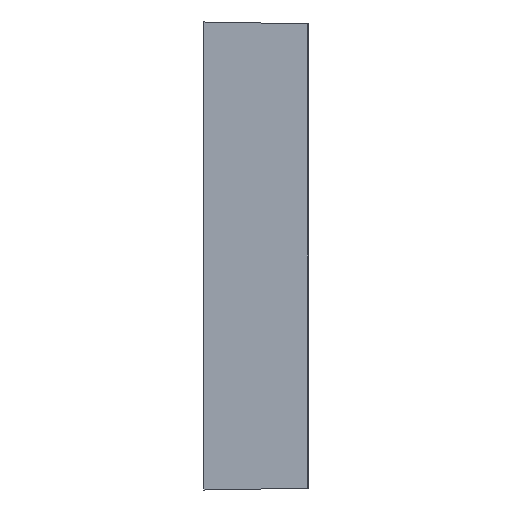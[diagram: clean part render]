
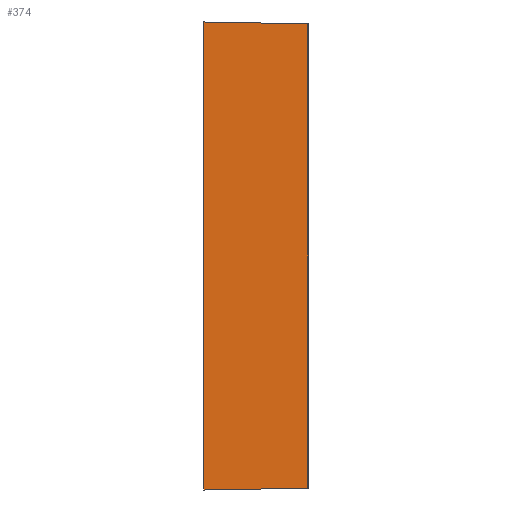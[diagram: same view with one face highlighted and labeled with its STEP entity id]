
A CAD part, left-side view. The second image highlights one B-rep face of the part: STEP entity #374.
In plain terms, the highlighted planar face has unit normal (-1, -0.018, 0).
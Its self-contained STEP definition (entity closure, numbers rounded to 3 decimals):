
#25 = DIRECTION ( 'NONE',  ( -1., -0.017, 0. ) ) ;
#36 = ORIENTED_EDGE ( 'NONE', *, *, #198, .F. ) ;
#44 = ORIENTED_EDGE ( 'NONE', *, *, #619, .F. ) ;
#48 = CARTESIAN_POINT ( 'NONE',  ( 0., 0., -5.4 ) ) ;
#52 = LINE ( 'NONE', #629, #200 ) ;
#103 = VECTOR ( 'NONE', #427, 1000. ) ;
#112 = FACE_OUTER_BOUND ( 'NONE', #947, .T. ) ;
#123 = CARTESIAN_POINT ( 'NONE',  ( 0., 0., -5.4 ) ) ;
#198 = EDGE_CURVE ( 'NONE', #271, #546, #903, .T. ) ;
#200 = VECTOR ( 'NONE', #730, 1000. ) ;
#220 = EDGE_CURVE ( 'NONE', #1048, #1136, #746, .T. ) ;
#271 = VERTEX_POINT ( 'NONE', #570 ) ;
#273 = CARTESIAN_POINT ( 'NONE',  ( 0.042, -2.4, 5.358 ) ) ;
#308 = ORIENTED_EDGE ( 'NONE', *, *, #870, .F. ) ;
#364 = LINE ( 'NONE', #1125, #1055 ) ;
#374 = ADVANCED_FACE ( 'NONE', ( #112 ), #876, .T. ) ;
#427 = DIRECTION ( 'NONE',  ( -0.017, 1., -0.017 ) ) ;
#546 = VERTEX_POINT ( 'NONE', #827 ) ;
#563 = CARTESIAN_POINT ( 'NONE',  ( 0.003, -0.188, 5.397 ) ) ;
#570 = CARTESIAN_POINT ( 'NONE',  ( 0.042, -2.4, -5.358 ) ) ;
#619 = EDGE_CURVE ( 'NONE', #1048, #271, #364, .T. ) ;
#629 = CARTESIAN_POINT ( 'NONE',  ( 0., 0., -5.4 ) ) ;
#699 = AXIS2_PLACEMENT_3D ( 'NONE', #123, #25, #888 ) ;
#730 = DIRECTION ( 'NONE',  ( 0., 0., 1. ) ) ;
#746 = LINE ( 'NONE', #563, #801 ) ;
#752 = DIRECTION ( 'NONE',  ( 0., 0., -1. ) ) ;
#801 = VECTOR ( 'NONE', #1145, 1000. ) ;
#827 = CARTESIAN_POINT ( 'NONE',  ( 0., 0., -5.4 ) ) ;
#870 = EDGE_CURVE ( 'NONE', #546, #1136, #52, .T. ) ;
#876 = PLANE ( 'NONE',  #699 ) ;
#888 = DIRECTION ( 'NONE',  ( 0.017, -1., 0. ) ) ;
#903 = LINE ( 'NONE', #48, #103 ) ;
#947 = EDGE_LOOP ( 'NONE', ( #44, #970, #308, #36 ) ) ;
#969 = CARTESIAN_POINT ( 'NONE',  ( 0., 0., 5.4 ) ) ;
#970 = ORIENTED_EDGE ( 'NONE', *, *, #220, .T. ) ;
#1048 = VERTEX_POINT ( 'NONE', #273 ) ;
#1055 = VECTOR ( 'NONE', #752, 1000. ) ;
#1125 = CARTESIAN_POINT ( 'NONE',  ( 0.042, -2.4, -5.4 ) ) ;
#1136 = VERTEX_POINT ( 'NONE', #969 ) ;
#1145 = DIRECTION ( 'NONE',  ( -0.017, 1., 0.017 ) ) ;
